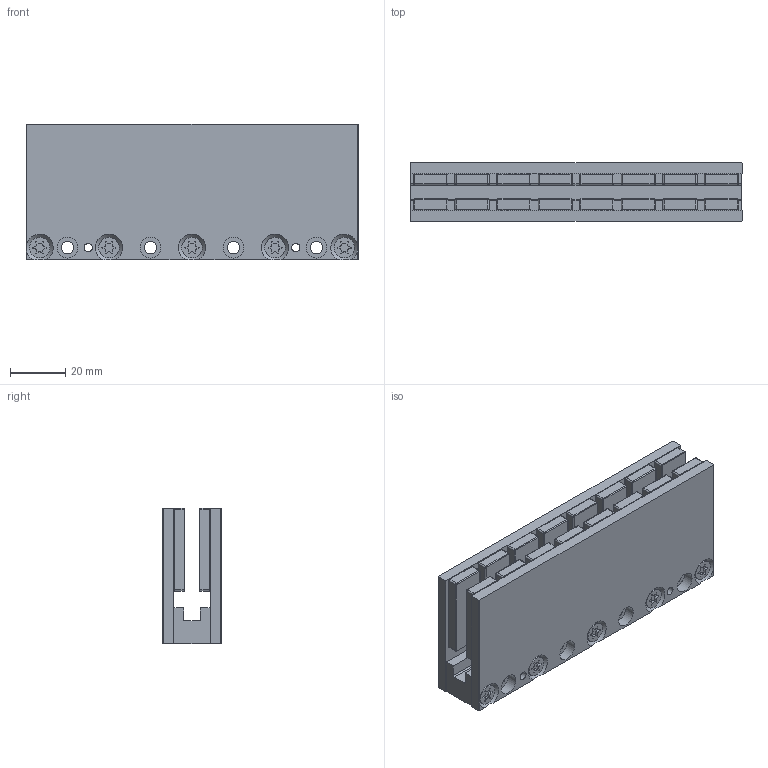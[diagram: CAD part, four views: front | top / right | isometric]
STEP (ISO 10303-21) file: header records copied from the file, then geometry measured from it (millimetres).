
FILE_DESCRIPTION( ( '-' ), '1' );
FILE_NAME( 'C:/Users/peikelboom/Desktop/STEP Files/Ironless/UM/Iron Less_UM 120 mm_MagnetYoke 160607.stp', '20-04-2016', ( 'P.Eikelboom' ), ( 'Technotion' ), 'PSStep 16.0.42', '-', ' ' );
FILE_SCHEMA( ( 'AUTOMOTIVE_DESIGN { 1 0 10303 214 1 1 1 1 }' ) );
Length unit declared in the file: millimetre
Products named in the file (1): 4022 363 50134_130705-oa15
Bounding box: 119.9 x 21.1 x 49 mm (x, y, z)
Surface area: 36329.2 mm2 (no closed solid volume)
Topology: 0 solids, 815 shells, 815 faces, 3848 edges, 3753 vertices
Faces by surface type: cylinder 367, plane 278, bspline 128, cone 42
Full cylindrical faces by diameter (mm): 3 x6, 3.3 x5, 4 x10, 4.5 x14, 7.4 x10, 7.5 x8
Entity records: 46398 total; most frequent: CARTESIAN_POINT 10388, DIRECTION 6848, ORIENTED_EDGE 3704, EDGE_CURVE 3704, VERTEX_POINT 3704, AXIS2_PLACEMENT_3D 2484, LINE 1880, VECTOR 1880
